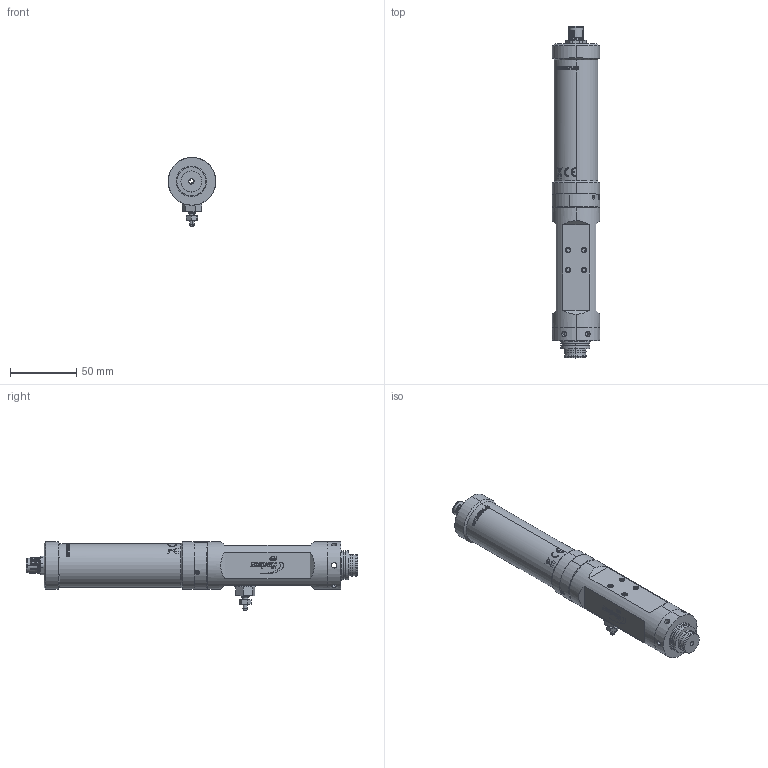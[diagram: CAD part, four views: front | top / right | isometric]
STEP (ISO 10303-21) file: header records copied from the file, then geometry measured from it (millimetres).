
FILE_DESCRIPTION (( 'STEP AP214' ), '1' );
FILE_NAME ('NORDSONEFD-7364203 PUMP, 2K, 797PCP, 0.01CC REV,. FFKM1.STEP', '2020-03-06T15:36:37', ( '' ), ( '' ), 'SwSTEP 2.0', 'SolidWorks 2019', '' );
FILE_SCHEMA (( 'AUTOMOTIVE_DESIGN' ));
Length unit declared in the file: inch
Products named in the file (1): NORDSONEFD-7364203 PUMP, 2K, 797PCP, 0.01CC REV,. FFKM1
Bounding box: 36 x 250.84 x 52.04 mm (x, y, z)
Surface area: 32545.4 mm2 (no closed solid volume)
Topology: 0 solids, 18 shells, 541 faces, 2047 edges, 1576 vertices
Faces by surface type: cylinder 309, plane 110, bspline 67, cone 27, sphere 16, torus 12
Entity records: 53903 total; most frequent: CARTESIAN_POINT 37015, ORIENTED_EDGE 3616, DIRECTION 2210, EDGE_CURVE 2015, VERTEX_POINT 1560, AXIS2_PLACEMENT_3D 790, EDGE_LOOP 662, VECTOR 630
